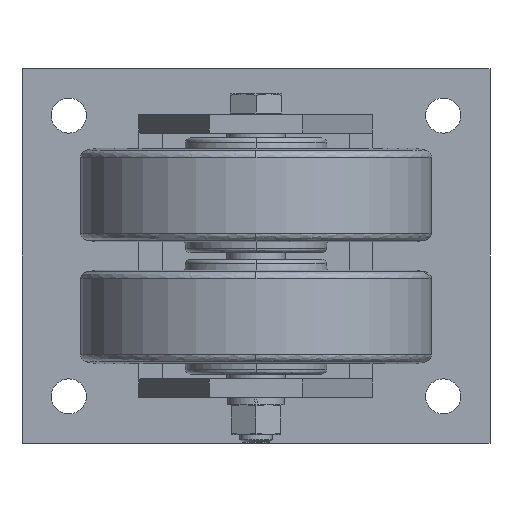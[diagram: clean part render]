
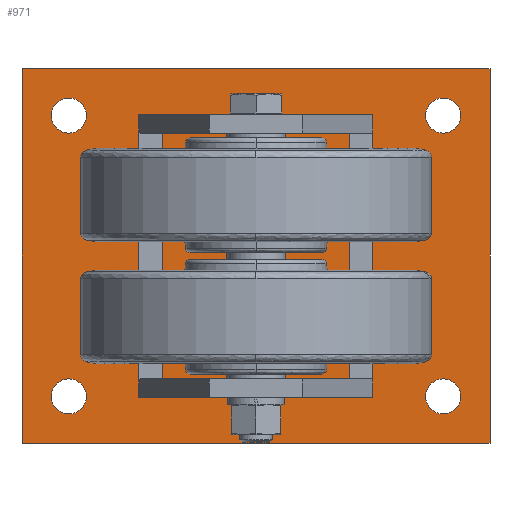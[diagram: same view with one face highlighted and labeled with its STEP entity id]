
A CAD part, front view. The second image highlights one B-rep face of the part: STEP entity #971.
In plain terms, the highlighted planar face has unit normal (0, -1, 0).
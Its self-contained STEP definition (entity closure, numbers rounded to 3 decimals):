
#852=CARTESIAN_POINT('',(-100.,0.0,-27.5));
#853=DIRECTION('',(0.0,-1.0,0.0));
#854=DIRECTION('',(1.0,0.0,0.0));
#855=AXIS2_PLACEMENT_3D('',#852,#853,#854);
#856=PLANE('',#855);
#857=CARTESIAN_POINT('',(-100.,0.0,-27.5));
#858=VERTEX_POINT('',#857);
#859=CARTESIAN_POINT('',(100.0,0.,-27.5));
#860=VERTEX_POINT('',#859);
#861=CARTESIAN_POINT('',(-100.,0.0,-27.5));
#862=DIRECTION('',(1.0,0.0,0.0));
#863=VECTOR('',#862,200.);
#864=LINE('',#861,#863);
#865=EDGE_CURVE('',#858,#860,#864,.T.);
#866=ORIENTED_EDGE('',*,*,#865,.T.);
#867=CARTESIAN_POINT('',(100.0,0.,132.5));
#868=VERTEX_POINT('',#867);
#869=CARTESIAN_POINT('',(100.0,0.,-27.5));
#870=DIRECTION('',(0.0,0.0,1.0));
#871=VECTOR('',#870,160.0);
#872=LINE('',#869,#871);
#873=EDGE_CURVE('',#860,#868,#872,.T.);
#874=ORIENTED_EDGE('',*,*,#873,.T.);
#875=CARTESIAN_POINT('',(-100.,0.0,132.5));
#876=VERTEX_POINT('',#875);
#877=CARTESIAN_POINT('',(-100.,0.0,132.5));
#878=DIRECTION('',(1.0,0.0,0.0));
#879=VECTOR('',#878,200.);
#880=LINE('',#877,#879);
#881=EDGE_CURVE('',#876,#868,#880,.T.);
#882=ORIENTED_EDGE('',*,*,#881,.F.);
#883=CARTESIAN_POINT('',(-100.,0.0,-27.5));
#884=DIRECTION('',(0.0,0.0,1.0));
#885=VECTOR('',#884,160.0);
#886=LINE('',#883,#885);
#887=EDGE_CURVE('',#858,#876,#886,.T.);
#888=ORIENTED_EDGE('',*,*,#887,.F.);
#889=EDGE_LOOP('',(#866,#874,#882,#888));
#890=FACE_OUTER_BOUND('',#889,.T.);
#891=CARTESIAN_POINT('',(72.5,0.0,-7.5));
#892=VERTEX_POINT('',#891);
#893=CARTESIAN_POINT('',(87.5,0.0,-7.5));
#894=VERTEX_POINT('',#893);
#895=CARTESIAN_POINT('',(80.0,0.0,-7.5));
#896=DIRECTION('',(0.0,1.0,0.0));
#897=DIRECTION('',(-1.0,0.0,0.0));
#898=AXIS2_PLACEMENT_3D('',#895,#896,#897);
#899=CIRCLE('',#898,7.5);
#900=EDGE_CURVE('',#892,#894,#899,.T.);
#901=ORIENTED_EDGE('',*,*,#900,.T.);
#902=CARTESIAN_POINT('',(80.0,0.0,-7.5));
#903=DIRECTION('',(0.0,1.0,0.0));
#904=DIRECTION('',(-1.0,0.0,0.0));
#905=AXIS2_PLACEMENT_3D('',#902,#903,#904);
#906=CIRCLE('',#905,7.5);
#907=EDGE_CURVE('',#894,#892,#906,.T.);
#908=ORIENTED_EDGE('',*,*,#907,.T.);
#909=EDGE_LOOP('',(#901,#908));
#910=FACE_BOUND('',#909,.T.);
#911=CARTESIAN_POINT('',(-87.5,0.0,-7.5));
#912=VERTEX_POINT('',#911);
#913=CARTESIAN_POINT('',(-72.5,0.0,-7.5));
#914=VERTEX_POINT('',#913);
#915=CARTESIAN_POINT('',(-80.0,0.0,-7.5));
#916=DIRECTION('',(0.0,1.0,0.0));
#917=DIRECTION('',(-1.0,0.0,0.0));
#918=AXIS2_PLACEMENT_3D('',#915,#916,#917);
#919=CIRCLE('',#918,7.5);
#920=EDGE_CURVE('',#912,#914,#919,.T.);
#921=ORIENTED_EDGE('',*,*,#920,.T.);
#922=CARTESIAN_POINT('',(-80.0,0.0,-7.5));
#923=DIRECTION('',(0.0,1.0,0.0));
#924=DIRECTION('',(-1.0,0.0,0.0));
#925=AXIS2_PLACEMENT_3D('',#922,#923,#924);
#926=CIRCLE('',#925,7.5);
#927=EDGE_CURVE('',#914,#912,#926,.T.);
#928=ORIENTED_EDGE('',*,*,#927,.T.);
#929=EDGE_LOOP('',(#921,#928));
#930=FACE_BOUND('',#929,.T.);
#931=CARTESIAN_POINT('',(-87.5,0.0,112.5));
#932=VERTEX_POINT('',#931);
#933=CARTESIAN_POINT('',(-72.5,0.0,112.5));
#934=VERTEX_POINT('',#933);
#935=CARTESIAN_POINT('',(-80.0,0.0,112.5));
#936=DIRECTION('',(0.0,1.0,0.0));
#937=DIRECTION('',(-1.0,0.0,0.0));
#938=AXIS2_PLACEMENT_3D('',#935,#936,#937);
#939=CIRCLE('',#938,7.5);
#940=EDGE_CURVE('',#932,#934,#939,.T.);
#941=ORIENTED_EDGE('',*,*,#940,.T.);
#942=CARTESIAN_POINT('',(-80.0,0.0,112.5));
#943=DIRECTION('',(0.0,1.0,0.0));
#944=DIRECTION('',(-1.0,0.0,0.0));
#945=AXIS2_PLACEMENT_3D('',#942,#943,#944);
#946=CIRCLE('',#945,7.5);
#947=EDGE_CURVE('',#934,#932,#946,.T.);
#948=ORIENTED_EDGE('',*,*,#947,.T.);
#949=EDGE_LOOP('',(#941,#948));
#950=FACE_BOUND('',#949,.T.);
#951=CARTESIAN_POINT('',(72.5,0.0,112.5));
#952=VERTEX_POINT('',#951);
#953=CARTESIAN_POINT('',(87.5,0.0,112.5));
#954=VERTEX_POINT('',#953);
#955=CARTESIAN_POINT('',(80.0,0.0,112.5));
#956=DIRECTION('',(0.0,1.0,0.0));
#957=DIRECTION('',(-1.0,0.0,0.0));
#958=AXIS2_PLACEMENT_3D('',#955,#956,#957);
#959=CIRCLE('',#958,7.5);
#960=EDGE_CURVE('',#952,#954,#959,.T.);
#961=ORIENTED_EDGE('',*,*,#960,.T.);
#962=CARTESIAN_POINT('',(80.0,0.0,112.5));
#963=DIRECTION('',(0.0,1.0,0.0));
#964=DIRECTION('',(-1.0,0.0,0.0));
#965=AXIS2_PLACEMENT_3D('',#962,#963,#964);
#966=CIRCLE('',#965,7.5);
#967=EDGE_CURVE('',#954,#952,#966,.T.);
#968=ORIENTED_EDGE('',*,*,#967,.T.);
#969=EDGE_LOOP('',(#961,#968));
#970=FACE_BOUND('',#969,.T.);
#971=ADVANCED_FACE('',(#890,#910,#930,#950,#970),#856,.T.);
